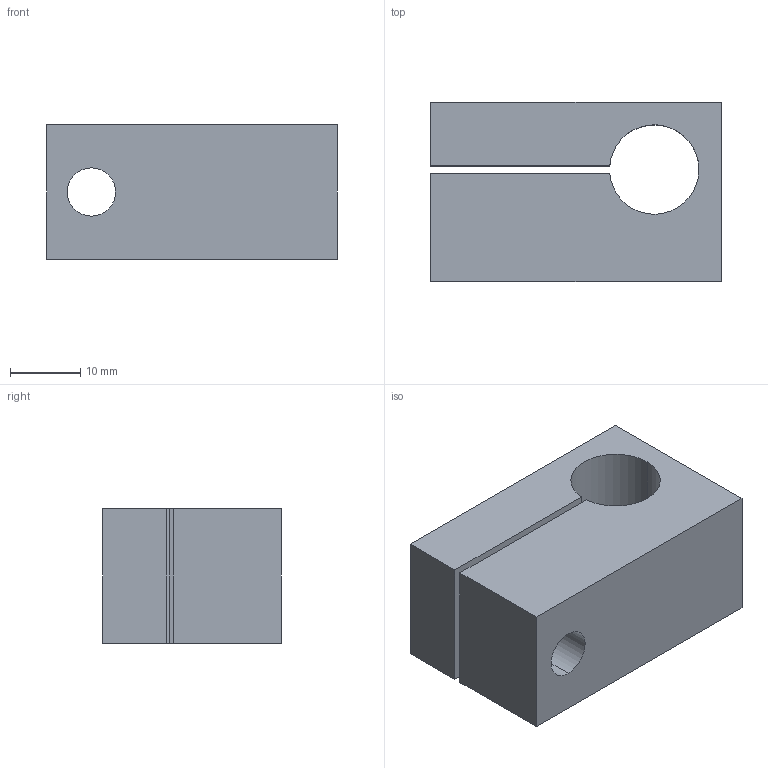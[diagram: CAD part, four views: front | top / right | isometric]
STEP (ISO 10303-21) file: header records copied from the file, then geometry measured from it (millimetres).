
FILE_DESCRIPTION (( 'STEP AP203' ), '1' );
FILE_NAME ('269-18-310.STEP', '2020-03-02T22:23:03', ( '' ), ( '' ), 'SwSTEP 2.0', 'SolidWorks 2017', '' );
FILE_SCHEMA (( 'CONFIG_CONTROL_DESIGN' ));
Length unit declared in the file: inch
Products named in the file (1): 269-18-310
Bounding box: 41.27 x 25.4 x 19.05 mm (x, y, z)
Volume: 16166.1 mm3; surface area: 6399.6 mm2
Topology: 1 solids, 1 shells, 15 faces, 39 edges, 26 vertices
Faces by surface type: plane 9, cylinder 6
Entity records: 552 total; most frequent: DIRECTION 83, CARTESIAN_POINT 81, ORIENTED_EDGE 78, EDGE_CURVE 39, AXIS2_PLACEMENT_3D 28, LINE 27, VECTOR 27, VERTEX_POINT 26
